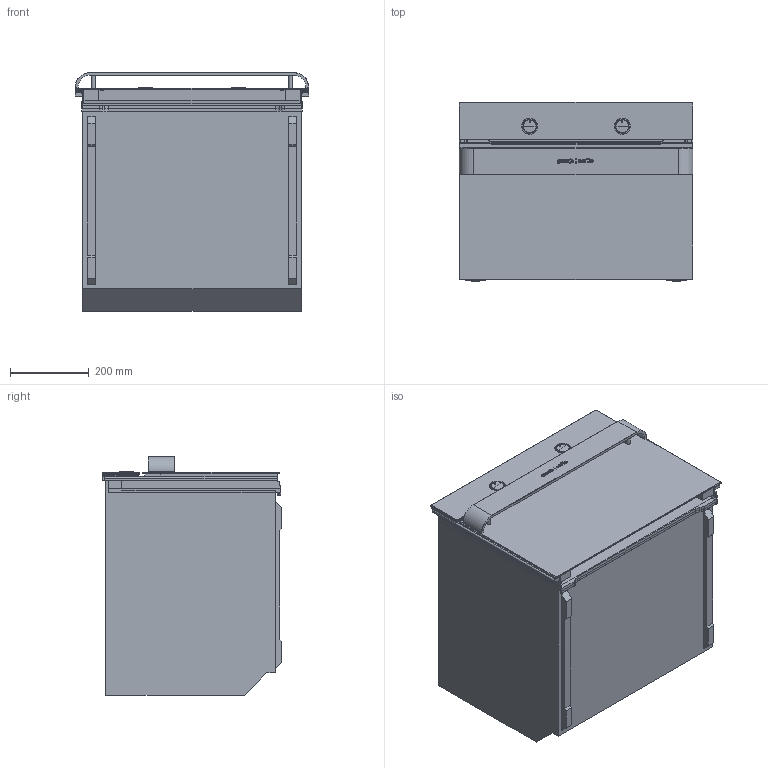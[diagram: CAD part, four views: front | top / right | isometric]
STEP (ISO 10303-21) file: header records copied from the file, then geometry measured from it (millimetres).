
FILE_DESCRIPTION (( 'STEP AP203' ), '1' );
FILE_NAME ('728023_BCM547ORAB.STEP', '2017-03-09T14:36:14', ( '' ), ( '' ), 'SwSTEP 2.0', 'SolidWorks 2016', '' );
FILE_SCHEMA (( 'CONFIG_CONTROL_DESIGN' ));
Length unit declared in the file: millimetre
Products named in the file (21): ALUX-001_Rocaj OI2 kpl-INOX.sldasm-Part-1; ALUX-001_Rocaj OI2 kpl-ALUX; VRATA; 728023_BCM547ORAB; ROZETA GUMBA PP; PP_BIO^CELNA BIO MF Icon led G (push pull); BODY0-2; GUMB_PP; PECICA; CEL APARAT BIO 60 Piro Dot matrix G.sldasm-Part-492; CEL APARAT BIO 60 Piro Dot matrix G.sldasm-Part-481; CELNA BIO MF Icon led G (push pull).sldasm-Part-4; CELNA BIO MF Icon led G (push pull); CEL APARAT BIO 60 Piro Dot matrix G.sldasm-Part-20; BODY0-1; CELNA BIO MF Icon led G (push pull).sldasm-Part-1; BIO 60 Piro Icon led G (push pull); OBOD PEÈICE; 003.sldasm-Part-10; CELNA BIO MF Icon led G (push pull).sldasm-Part-5; OBOD
Assembly tree (21 placements, depth 6):
  728023_BCM547ORAB
    BIO 60 Piro Icon led G (push pull)
      PECICA
        OBOD PEÈICE
          CEL APARAT BIO 60 Piro Dot matrix G.sldasm-Part-20
      OBOD
        003.sldasm-Part-10
      CELNA BIO MF Icon led G (push pull)
        CELNA BIO MF Icon led G (push pull).sldasm-Part-1
        CELNA BIO MF Icon led G (push pull).sldasm-Part-4
        CELNA BIO MF Icon led G (push pull).sldasm-Part-5
        PP_BIO^CELNA BIO MF Icon led G (push pull)  x2
          ROZETA GUMBA PP
          GUMB_PP
            BODY0-1
            BODY0-2
      VRATA
        CEL APARAT BIO 60 Piro Dot matrix G.sldasm-Part-492
        CEL APARAT BIO 60 Piro Dot matrix G.sldasm-Part-481
    ALUX-001_Rocaj OI2 kpl-ALUX
      ALUX-001_Rocaj OI2 kpl-INOX.sldasm-Part-1
Bounding box: 593 x 454.9 x 605.5 mm (x, y, z)
Volume: 128024881.8 mm3; surface area: 3088137.7 mm2
Topology: 14 solids, 14 shells, 582 faces, 1491 edges, 960 vertices
Faces by surface type: plane 244, cylinder 158, bspline 82, torus 58, cone 28, sphere 12
Entity records: 20875 total; most frequent: CARTESIAN_POINT 6226, ORIENTED_EDGE 2644, DIRECTION 2495, EDGE_CURVE 1322, AXIS2_PLACEMENT_3D 872, VERTEX_POINT 854, VECTOR 751, LINE 751
